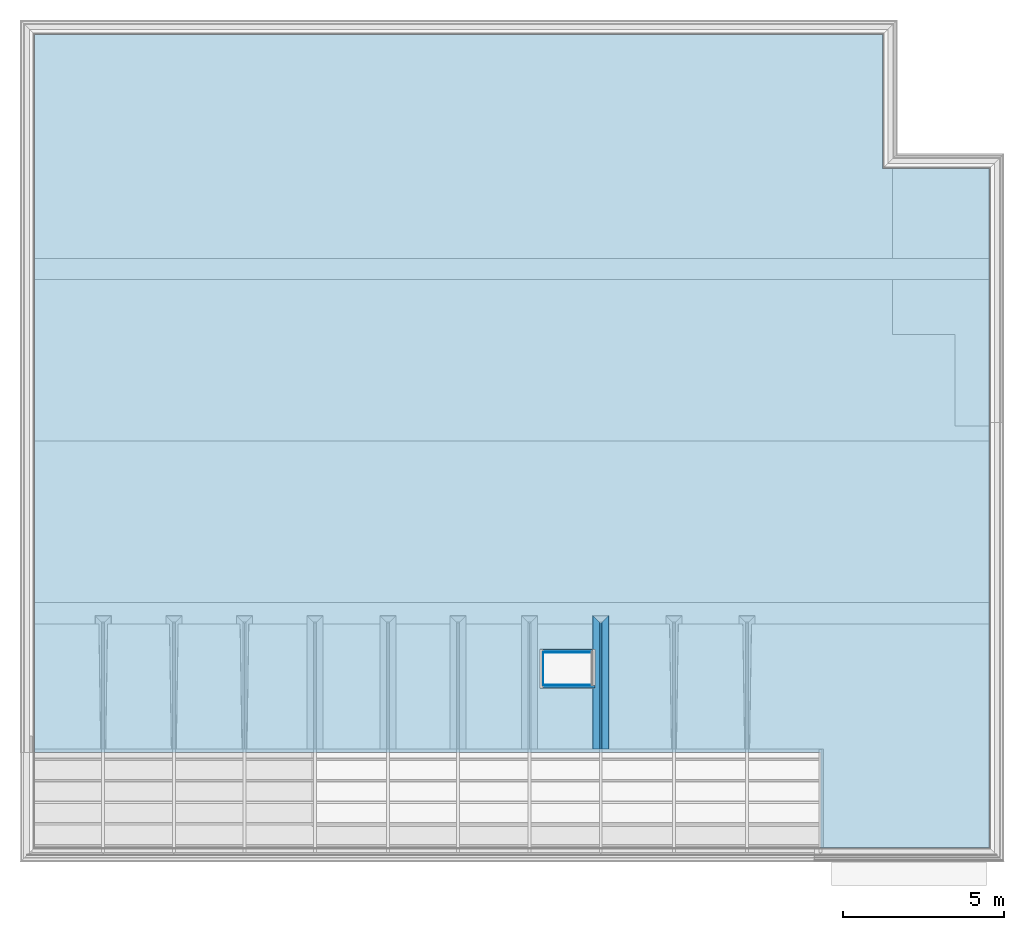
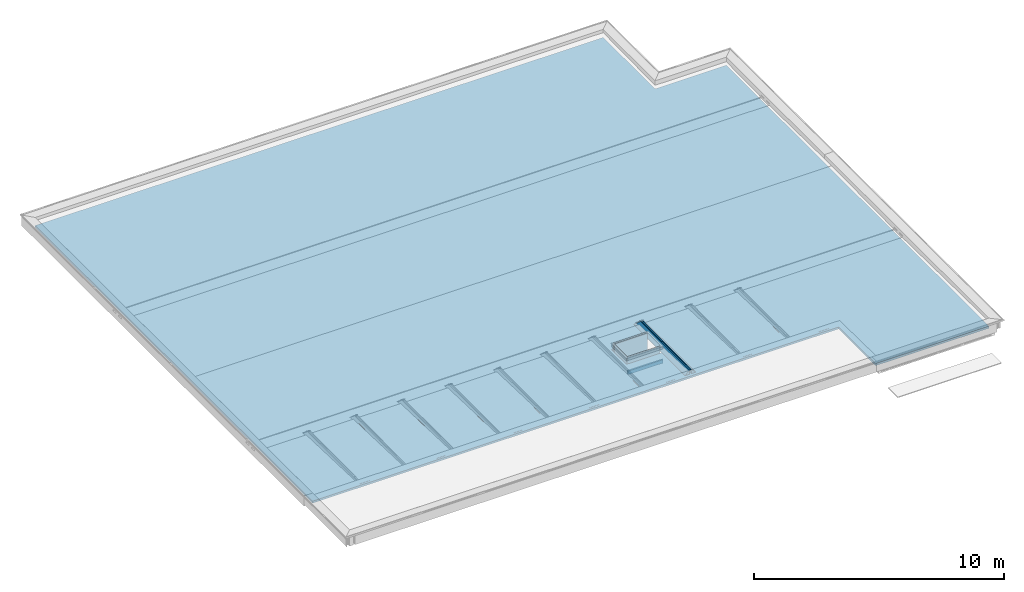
# One storey, part 10 of 16: 12 building element parts, 6 elements without a shape of their own.
"""IFC2X3 building model written with IfcOpenShell, lengths in millimetres."""

from ifc_helpers import new_model, entity, si_unit, converted_unit, derived_unit, money_unit, direction, frame, origin_with_axes, place, context, subcontext, project, spatial, faceted_brep, material, type_object, element, aggregate, save


model = new_model("IFC2X3")

# Units and contexts
model_context = context("Model", 3, precision=0.01, world=origin_with_axes(), true_north=direction((0.0, 1.0)))
body_context = subcontext(model_context, "Body", "Model", "MODEL_VIEW")
ifc_project = project(units=[si_unit("LENGTHUNIT", "METRE", prefix="MILLI"), si_unit("AREAUNIT", "SQUARE_METRE"), si_unit("VOLUMEUNIT", "CUBIC_METRE"), converted_unit("PLANEANGLEUNIT", "DEGREE", entity("IfcPlaneAngleMeasure", 0.0174532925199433), si_unit("PLANEANGLEUNIT", "RADIAN"), dimensions=[0, 0, 0, 0, 0, 0, 0]), money_unit("EUR"), converted_unit("TIMEUNIT", "Year", entity("IfcTimeMeasure", 31556926.0), si_unit("TIMEUNIT", "SECOND"), dimensions=[0, 0, 1, 0, 0, 0, 0]), si_unit("MASSUNIT", "GRAM", prefix="KILO"), si_unit("THERMODYNAMICTEMPERATUREUNIT", "DEGREE_CELSIUS"), si_unit("LUMINOUSINTENSITYUNIT", "LUMEN"), si_unit("ENERGYUNIT", "JOULE", prefix="MEGA"), derived_unit("THERMALCONDUCTANCEUNIT", [(si_unit("POWERUNIT", "WATT"), 1), (si_unit("LENGTHUNIT", "METRE"), -1), (si_unit("THERMODYNAMICTEMPERATUREUNIT", "KELVIN"), -1)]), derived_unit("SPECIFICHEATCAPACITYUNIT", [(si_unit("ENERGYUNIT", "JOULE"), 1), (si_unit("MASSUNIT", "GRAM", prefix="KILO"), -1), (si_unit("THERMODYNAMICTEMPERATUREUNIT", "KELVIN"), -1)]), derived_unit("MASSDENSITYUNIT", [(si_unit("MASSUNIT", "GRAM", prefix="KILO"), 1), (si_unit("VOLUMEUNIT", "CUBIC_METRE"), -1)])], contexts=[model_context])

# Site, building, storey
site_placement = place(None, origin_with_axes())
site = spatial("IfcSite", under=ifc_project, at=site_placement, Name="Site", CompositionType="ELEMENT")
building_placement = place(site_placement, origin_with_axes())
building = spatial("IfcBuilding", under=site, at=building_placement, Name="Naam gebouw", CompositionType="ELEMENT")
storey_placement = place(building_placement, frame((0.0, 0.0, 7820.0), z_axis=(0.0, 0.0, 1.0), x_axis=(1.0, 0.0, 0.0)))
storey = spatial("IfcBuildingStorey", under=building, at=storey_placement, Name="2e dakoverzicht", CompositionType="ELEMENT", Elevation=7820.0)

# Slab, building element part
slab_type = type_object("IfcSlabType", Name="27 Dak isolatie 350", PredefinedType="NOTDEFINED")
slab_placement = place(storey_placement, frame((154.9999999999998, 6779.999999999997, 0.0), z_axis=(0.0, 0.0, 1.0), x_axis=(1.0, 0.0, 0.0)))
slab = element("IfcSlab", 1, at=slab_placement, inside=storey, type_object=slab_type, Name="_Vloer-x", PredefinedType="NOTDEFINED")
ifc_material_1 = material(Name="Isolatie - Steenwol hard")
building_element_part_1_placement = place(slab_placement, origin_with_axes())
building_element_part_1 = element("IfcBuildingElementPart", 2, at=building_element_part_1_placement, material=ifc_material_1, Name="Isolatie - Steenwol hard", context=body_context, shape_type="Brep", body=[
    faceted_brep([(24344.99902028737, 100.0000000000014, 99.99999999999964), (24344.99902028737, 89.99999999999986, 99.99999999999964), (24347.64903999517, 89.99999999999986, 99.99999999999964), (24347.64903999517, -2966.000000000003, 99.99999999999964), (29589.99999999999, -2966.000000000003, 99.99999999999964), (29589.99999999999, 18089.97621406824, 99.99999999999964), (26290.00000000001, 18089.97621406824, 99.99999999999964), (26290.00000000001, 22240.0, 99.99999999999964), (0.0, 22240.0, 99.99999999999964), (0.0, 100.0000000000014, 99.99999999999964), (2129.849999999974, 100.0000000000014, 99.99999999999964), (2129.849999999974, 4030.00005527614, 99.99999999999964), (2135.149999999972, 4030.00005527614, 99.99999999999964), (2135.149999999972, 100.0000000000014, 99.99999999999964), (4317.350000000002, 100.0000000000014, 99.99999999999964), (4317.350000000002, 4030.00005527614, 99.99999999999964), (4322.650000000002, 4030.00005527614, 99.99999999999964), (4322.650000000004, 100.0000000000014, 99.99999999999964), (6504.849999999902, 100.0000000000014, 99.99999999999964), (6504.849999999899, 4030.00005527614, 99.99999999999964), (6510.149999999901, 4030.00005527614, 99.99999999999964), (6510.149999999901, 100.0000000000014, 99.99999999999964), (8692.350000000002, 100.0000000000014, 99.99999999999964), (8692.350000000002, 4030.00005527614, 99.99999999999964), (8697.650000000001, 4030.00005527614, 99.99999999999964), (8697.650000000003, 100.0000000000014, 99.99999999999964), (10950.34985614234, 100.0000000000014, 99.99999999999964), (10950.34985614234, 4030.00005527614, 99.99999999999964), (10955.64985614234, 4030.00005527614, 99.99999999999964), (10955.64985614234, 100.0000000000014, 99.99999999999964), (13117.34971228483, 100.0000000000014, 99.99999999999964), (13117.34971228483, 4030.00005527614, 99.99999999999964), (13122.64971228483, 4030.00005527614, 99.99999999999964), (13122.64971228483, 100.0000000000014, 99.99999999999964), (15329.84956842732, 100.0000000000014, 99.99999999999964), (15329.84956842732, 4030.00005527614, 99.99999999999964), (15335.14956842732, 4030.00005527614, 99.99999999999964), (15335.14956842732, 100.0000000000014, 99.99999999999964), (17542.3494245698, 100.0000000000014, 99.99999999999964), (17542.3494245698, 4030.00005527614, 99.99999999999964), (17547.6494245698, 4030.00005527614, 99.99999999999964), (17547.6494245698, 100.0000000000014, 99.99999999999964), (19809.01596304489, 100.0000000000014, 99.99999999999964), (19809.01596304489, 4030.00005527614, 99.99999999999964), (19814.31596304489, 4030.00005527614, 99.99999999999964), (19814.31596304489, 100.0000000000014, 99.99999999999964), (22075.68250152, 100.0000000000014, 99.99999999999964), (22075.68250152, 4030.00005527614, 99.99999999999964), (22080.98250151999, 4030.00005527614, 99.99999999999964), (22080.98250151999, 100.0000000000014, 99.99999999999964), (17369.99903999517, 1990.000318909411, 99.99999999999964), (15669.99903999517, 1990.000318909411, 99.99999999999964), (15669.99903999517, 3190.000318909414, 99.99999999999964), (17369.99903999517, 3190.000318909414, 99.99999999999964), (24344.99902028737, 100.0000000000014, 98.99999999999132), (24344.99902028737, 89.99999999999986, 98.99999999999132), (24342.34903999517, 89.99999999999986, 98.99999999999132), (24342.34903999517, 89.99999999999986, 97.99999999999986), (24299.49903999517, 89.99999999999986, 97.99999999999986), (24299.49903999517, 89.99999999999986, 89.99999999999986), (24390.49903999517, 89.99999999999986, 89.99999999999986), (24390.49903999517, 89.99999999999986, 97.99999999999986), (24347.64903999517, 89.99999999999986, 97.99999999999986), (24347.64903999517, -2966.000000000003, 97.99999999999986), (24390.49903999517, -2966.000000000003, 97.99999999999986), (24390.49903999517, -2966.000000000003, 89.99999999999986), (24344.99903999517, -2966.000000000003, 89.99999999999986), (24344.99903999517, -2966.000000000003, 0.0), (29589.99999999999, -2966.000000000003, 0.0), (29589.99999999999, 18089.97621406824, 0.0), (26290.00000000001, 18089.97621406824, 0.0), (26290.00000000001, 22240.0, 0.0), (0.0, 22240.0, 0.0), (0.0, 100.0000000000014, 98.99999999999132), (0.0, 0.0, 0.0), (0.0, 0.0, 98.99999999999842), (2129.849999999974, 100.0000000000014, 98.99999999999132), (2129.849999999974, 0.0, 98.99999999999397), (2129.849999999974, 0.0, 97.99999999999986), (2129.849999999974, 4030.00005527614, 97.99999999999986), (2135.149999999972, 4030.00005527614, 97.99999999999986), (2086.999999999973, 4030.00005527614, 97.99999999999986), (2086.999999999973, 4030.00005527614, 89.99999999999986), (2177.999999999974, 4030.00005527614, 89.99999999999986), (2177.999999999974, 4030.00005527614, 97.99999999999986), (2135.149999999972, 100.0000000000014, 98.99999999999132), (2135.149999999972, 0.0, 97.99999999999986), (2135.149999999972, 0.0, 98.99999999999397), (4317.350000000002, 100.0000000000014, 98.99999999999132), (4317.350000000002, 0.0, 98.99999999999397), (4317.350000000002, 0.0, 97.99999999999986), (4317.350000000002, 4030.00005527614, 97.99999999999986), (4322.650000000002, 4030.00005527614, 97.99999999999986), (4274.500000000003, 4030.00005527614, 97.99999999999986), (4274.500000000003, 4030.00005527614, 89.99999999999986), (4365.500000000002, 4030.00005527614, 89.99999999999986), (4365.500000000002, 4030.00005527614, 97.99999999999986), (4322.650000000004, 100.0000000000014, 98.99999999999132), (4322.650000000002, 0.0, 97.99999999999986), (4322.650000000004, 0.0, 98.99999999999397), (6504.849999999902, 100.0000000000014, 98.99999999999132), (6504.8499999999, 0.0, 98.99999999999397), (6504.849999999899, 0.0, 97.99999999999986), (6504.849999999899, 4030.00005527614, 97.99999999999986), (6510.149999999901, 4030.00005527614, 97.99999999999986), (6461.999999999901, 4030.00005527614, 97.99999999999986), (6461.999999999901, 4030.00005527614, 89.99999999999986), (6552.999999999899, 4030.00005527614, 89.99999999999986), (6552.999999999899, 4030.00005527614, 97.99999999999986), (6510.149999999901, 100.0000000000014, 98.99999999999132), (6510.149999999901, 0.0, 97.99999999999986), (6510.149999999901, 0.0, 98.99999999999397), (8692.350000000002, 100.0000000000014, 98.99999999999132), (8692.350000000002, 0.0, 98.99999999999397), (8692.350000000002, 0.0, 97.99999999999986), (8692.350000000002, 4030.00005527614, 97.99999999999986), (8697.650000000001, 4030.00005527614, 97.99999999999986), (8649.500000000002, 4030.00005527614, 97.99999999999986), (8649.500000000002, 4030.00005527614, 89.99999999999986), (8740.500000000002, 4030.00005527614, 89.99999999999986), (8740.500000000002, 4030.00005527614, 97.99999999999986), (8697.650000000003, 100.0000000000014, 98.99999999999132), (8697.650000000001, 0.0, 97.99999999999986), (8697.650000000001, 0.0, 98.99999999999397), (10950.34985614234, 100.0000000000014, 98.99999999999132), (10950.34985614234, 0.0, 98.99999999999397), (10950.34985614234, 0.0, 97.99999999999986), (10950.34985614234, 4030.00005527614, 97.99999999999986), (10955.64985614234, 4030.00005527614, 97.99999999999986), (10907.49985614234, 4030.00005527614, 97.99999999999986), (10907.49985614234, 4030.00005527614, 89.99999999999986), (10998.49985614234, 4030.00005527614, 89.99999999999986), (10998.49985614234, 4030.00005527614, 97.99999999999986), (10955.64985614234, 100.0000000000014, 98.99999999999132), (10955.64985614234, 0.0, 97.99999999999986), (10955.64985614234, 0.0, 98.99999999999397), (13117.34971228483, 100.0000000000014, 98.99999999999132), (13117.34971228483, 0.0, 98.99999999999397), (13117.34971228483, 0.0, 97.99999999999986), (13117.34971228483, 4030.00005527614, 97.99999999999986), (13122.64971228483, 4030.00005527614, 97.99999999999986), (13074.49971228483, 4030.00005527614, 97.99999999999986), (13074.49971228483, 4030.00005527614, 89.99999999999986), (13165.49971228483, 4030.00005527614, 89.99999999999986), (13165.49971228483, 4030.00005527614, 97.99999999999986), (13122.64971228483, 100.0000000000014, 98.99999999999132), (13122.64971228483, 0.0, 97.99999999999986), (13122.64971228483, 0.0, 98.99999999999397), (15329.84956842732, 100.0000000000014, 98.99999999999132), (15329.84956842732, 0.0, 98.99999999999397), (15329.84956842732, 0.0, 97.99999999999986), (15329.84956842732, 4030.00005527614, 97.99999999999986), (15335.14956842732, 4030.00005527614, 97.99999999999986), (15286.99956842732, 4030.00005527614, 97.99999999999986), (15286.99956842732, 4030.00005527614, 89.99999999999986), (15377.99956842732, 4030.00005527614, 89.99999999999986), (15377.99956842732, 4030.00005527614, 97.99999999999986), (15335.14956842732, 100.0000000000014, 98.99999999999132), (15335.14956842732, 0.0, 97.99999999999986), (15335.14956842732, 0.0, 98.99999999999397), (17542.3494245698, 100.0000000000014, 98.99999999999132), (17542.3494245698, 0.0, 98.99999999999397), (17542.3494245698, 0.0, 97.99999999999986), (17542.3494245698, 4030.00005527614, 97.99999999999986), (17547.6494245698, 4030.00005527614, 97.99999999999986), (17499.4994245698, 4030.00005527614, 97.99999999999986), (17499.4994245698, 4030.00005527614, 89.99999999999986), (17590.4994245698, 4030.00005527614, 89.99999999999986), (17590.4994245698, 4030.00005527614, 97.99999999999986), (17547.6494245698, 100.0000000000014, 98.99999999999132), (17547.6494245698, 0.0, 97.99999999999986), (17547.6494245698, 0.0, 98.99999999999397), (19809.01596304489, 100.0000000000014, 98.99999999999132), (19809.01596304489, 0.0, 98.99999999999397), (19809.01596304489, 0.0, 97.99999999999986), (19809.01596304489, 4030.00005527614, 97.99999999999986), (19814.31596304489, 4030.00005527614, 97.99999999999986), (19766.1659630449, 4030.00005527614, 97.99999999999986), (19766.1659630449, 4030.00005527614, 89.99999999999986), (19857.1659630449, 4030.00005527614, 89.99999999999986), (19857.1659630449, 4030.00005527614, 97.99999999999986), (19814.31596304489, 100.0000000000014, 98.99999999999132), (19814.31596304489, 0.0, 97.99999999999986), (19814.31596304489, 0.0, 98.99999999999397), (22075.68250152, 100.0000000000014, 98.99999999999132), (22075.68250152, 0.0, 98.99999999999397), (22075.68250152, 0.0, 97.99999999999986), (22075.68250152, 4030.00005527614, 97.99999999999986), (22080.98250151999, 4030.00005527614, 97.99999999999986), (22032.83250152, 4030.00005527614, 97.99999999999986), (22032.83250152, 4030.00005527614, 89.99999999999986), (22123.83250152, 4030.00005527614, 89.99999999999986), (22123.83250152, 4030.00005527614, 97.99999999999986), (22080.98250151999, 100.0000000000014, 98.99999999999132), (22080.98250151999, 0.0, 97.99999999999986), (22080.98250151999, 0.0, 98.99999999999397), (17369.99903999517, 1990.000318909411, 0.0), (15669.99903999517, 1990.000318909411, 0.0), (15669.99903999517, 3190.000318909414, 0.0), (17369.99903999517, 3190.000318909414, 0.0), (24342.34903999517, 0.0, 98.99999999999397), (24342.34903999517, 0.0, 97.99999999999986), (24299.49903999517, 0.0, 97.99999999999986), (24299.49903999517, 0.0, 89.99999999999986), (24344.99903999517, 0.0, 89.99999999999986), (24344.99903999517, 0.0, 0.0), (22123.83250152, 0.0, 97.99999999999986), (22123.83250151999, 0.0, 89.99999999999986), (22032.83250151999, 0.0, 89.99999999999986), (22032.83250152, 0.0, 97.99999999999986), (19857.1659630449, 0.0, 97.99999999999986), (19857.16596304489, 0.0, 89.99999999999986), (19766.16596304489, 0.0, 89.99999999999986), (19766.1659630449, 0.0, 97.99999999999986), (17590.4994245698, 0.0, 97.99999999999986), (17590.4994245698, 0.0, 89.99999999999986), (17499.4994245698, 0.0, 89.99999999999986), (17499.4994245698, 0.0, 97.99999999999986), (15377.99956842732, 0.0, 97.99999999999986), (15377.99956842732, 0.0, 89.99999999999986), (15286.99956842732, 0.0, 89.99999999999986), (15286.99956842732, 0.0, 97.99999999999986), (13165.49971228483, 0.0, 97.99999999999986), (13165.49971228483, 0.0, 89.99999999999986), (13074.49971228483, 0.0, 89.99999999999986), (13074.49971228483, 0.0, 97.99999999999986), (10998.49985614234, 0.0, 97.99999999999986), (10998.49985614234, 0.0, 89.99999999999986), (10907.49985614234, 0.0, 89.99999999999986), (10907.49985614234, 0.0, 97.99999999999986), (8740.500000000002, 0.0, 97.99999999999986), (8740.500000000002, 0.0, 89.99999999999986), (8649.500000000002, 0.0, 89.99999999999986), (8649.500000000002, 0.0, 97.99999999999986), (6552.999999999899, 0.0, 97.99999999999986), (6552.999999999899, 0.0, 89.99999999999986), (6461.999999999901, 0.0, 89.99999999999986), (6461.999999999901, 0.0, 97.99999999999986), (4365.500000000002, 0.0, 97.99999999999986), (4365.500000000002, 0.0, 89.99999999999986), (4274.500000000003, 0.0, 89.99999999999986), (4274.500000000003, 0.0, 97.99999999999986), (2177.999999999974, 0.0, 97.99999999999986), (2177.999999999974, 0.0, 89.99999999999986), (2086.999999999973, 0.0, 89.99999999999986), (2086.999999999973, 0.0, 97.99999999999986)], [[[0, 1, 2, 3, 4, 5, 6, 7, 8, 9, 10, 11, 12, 13, 14, 15, 16, 17, 18, 19, 20, 21, 22, 23, 24, 25, 26, 27, 28, 29, 30, 31, 32, 33, 34, 35, 36, 37, 38, 39, 40, 41, 42, 43, 44, 45, 46, 47, 48, 49], [50, 51, 52, 53]], [[1, 0, 54, 55]], [[55, 56, 57, 58, 59, 60, 61, 62, 2, 1]], [[63, 3, 2, 62]], [[4, 3, 63, 64, 65, 66, 67, 68]], [[5, 4, 68, 69]], [[6, 5, 69, 70]], [[7, 6, 70, 71]], [[8, 7, 71, 72]], [[73, 9, 8, 72, 74, 75]], [[76, 10, 9, 73]], [[76, 77, 78, 79, 11, 10]], [[80, 12, 11, 79, 81, 82, 83, 84]], [[85, 13, 12, 80, 86, 87]], [[88, 14, 13, 85]], [[88, 89, 90, 91, 15, 14]], [[92, 16, 15, 91, 93, 94, 95, 96]], [[97, 17, 16, 92, 98, 99]], [[100, 18, 17, 97]], [[100, 101, 102, 103, 19, 18]], [[104, 20, 19, 103, 105, 106, 107, 108]], [[109, 21, 20, 104, 110, 111]], [[112, 22, 21, 109]], [[112, 113, 114, 115, 23, 22]], [[116, 24, 23, 115, 117, 118, 119, 120]], [[121, 25, 24, 116, 122, 123]], [[124, 26, 25, 121]], [[124, 125, 126, 127, 27, 26]], [[128, 28, 27, 127, 129, 130, 131, 132]], [[133, 29, 28, 128, 134, 135]], [[136, 30, 29, 133]], [[136, 137, 138, 139, 31, 30]], [[140, 32, 31, 139, 141, 142, 143, 144]], [[145, 33, 32, 140, 146, 147]], [[148, 34, 33, 145]], [[148, 149, 150, 151, 35, 34]], [[152, 36, 35, 151, 153, 154, 155, 156]], [[157, 37, 36, 152, 158, 159]], [[160, 38, 37, 157]], [[160, 161, 162, 163, 39, 38]], [[164, 40, 39, 163, 165, 166, 167, 168]], [[169, 41, 40, 164, 170, 171]], [[172, 42, 41, 169]], [[172, 173, 174, 175, 43, 42]], [[176, 44, 43, 175, 177, 178, 179, 180]], [[181, 45, 44, 176, 182, 183]], [[184, 46, 45, 181]], [[184, 185, 186, 187, 47, 46]], [[188, 48, 47, 187, 189, 190, 191, 192]], [[193, 49, 48, 188, 194, 195]], [[0, 49, 193, 54]], [[51, 50, 196, 197]], [[52, 51, 197, 198]], [[53, 52, 198, 199]], [[50, 53, 199, 196]], [[56, 55, 54, 193, 195, 200]], [[56, 200, 201, 57]], [[57, 201, 202, 58]], [[58, 202, 203, 59]], [[204, 66, 65, 60, 59, 203]], [[60, 65, 64, 61]], [[61, 64, 63, 62]], [[67, 66, 204, 205]], [[67, 205, 74, 72, 71, 70, 69, 68], [196, 199, 198, 197]], [[200, 195, 194, 206, 207, 208, 209, 186, 185, 183, 182, 210, 211, 212, 213, 174, 173, 171, 170, 214, 215, 216, 217, 162, 161, 159, 158, 218, 219, 220, 221, 150, 149, 147, 146, 222, 223, 224, 225, 138, 137, 135, 134, 226, 227, 228, 229, 126, 125, 123, 122, 230, 231, 232, 233, 114, 113, 111, 110, 234, 235, 236, 237, 102, 101, 99, 98, 238, 239, 240, 241, 90, 89, 87, 86, 242, 243, 244, 245, 78, 77, 75, 74, 205, 204, 203, 202, 201]], [[77, 76, 73, 75]], [[79, 78, 245, 81]], [[81, 245, 244, 82]], [[82, 244, 243, 83]], [[83, 243, 242, 84]], [[84, 242, 86, 80]], [[89, 88, 85, 87]], [[91, 90, 241, 93]], [[93, 241, 240, 94]], [[94, 240, 239, 95]], [[95, 239, 238, 96]], [[96, 238, 98, 92]], [[101, 100, 97, 99]], [[103, 102, 237, 105]], [[105, 237, 236, 106]], [[106, 236, 235, 107]], [[107, 235, 234, 108]], [[108, 234, 110, 104]], [[113, 112, 109, 111]], [[115, 114, 233, 117]], [[117, 233, 232, 118]], [[118, 232, 231, 119]], [[119, 231, 230, 120]], [[120, 230, 122, 116]], [[125, 124, 121, 123]], [[127, 126, 229, 129]], [[129, 229, 228, 130]], [[130, 228, 227, 131]], [[131, 227, 226, 132]], [[132, 226, 134, 128]], [[137, 136, 133, 135]], [[139, 138, 225, 141]], [[141, 225, 224, 142]], [[142, 224, 223, 143]], [[143, 223, 222, 144]], [[144, 222, 146, 140]], [[149, 148, 145, 147]], [[151, 150, 221, 153]], [[153, 221, 220, 154]], [[154, 220, 219, 155]], [[155, 219, 218, 156]], [[156, 218, 158, 152]], [[161, 160, 157, 159]], [[163, 162, 217, 165]], [[165, 217, 216, 166]], [[166, 216, 215, 167]], [[167, 215, 214, 168]], [[168, 214, 170, 164]], [[173, 172, 169, 171]], [[175, 174, 213, 177]], [[177, 213, 212, 178]], [[178, 212, 211, 179]], [[179, 211, 210, 180]], [[180, 210, 182, 176]], [[185, 184, 181, 183]], [[187, 186, 209, 189]], [[189, 209, 208, 190]], [[190, 208, 207, 191]], [[191, 207, 206, 192]], [[192, 206, 194, 188]]]),
])
aggregate(slab, [building_element_part_1])

# Proxy, building element parts
building_element_proxy_type = type_object("IfcBuildingElementProxyType", Name="22 Metal stud 100 voorzetwand 100", PredefinedType="NOTDEFINED")
proxy_1_placement = place(storey_placement, frame((17424.99903999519, 9870.000318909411, -460.0000000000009), z_axis=(0.0, 0.0, 1.0), x_axis=(-1.0, 0.0, 0.0)))
proxy_1 = element("IfcBuildingElementProxy", 3, at=proxy_1_placement, inside=storey, type_object=building_element_proxy_type, Name="_Wand-x")
ifc_material_2 = material(Name="Gipsplaat")
building_element_part_2_placement = place(proxy_1_placement, origin_with_axes())
building_element_part_2 = element("IfcBuildingElementPart", 4, at=building_element_part_2_placement, material=ifc_material_2, Name="Gipsplaat", context=body_context, shape_type="Brep", body=[
    faceted_brep([(1500.0, -25.00000000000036, 25.00000000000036), (1500.0, -25.00000000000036, 0.0), (1512.499999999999, -25.00000000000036, 0.0), (1512.499999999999, -25.00000000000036, 840.0000000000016), (-12.49999999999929, -25.00000000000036, 840.0000000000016), (-12.49999999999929, -25.00000000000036, 0.0), (0.0, -25.00000000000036, 0.0), (0.0, -25.00000000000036, 25.00000000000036), (1500.0, -12.49999999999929, 25.00000000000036), (1500.0, -12.49999999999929, 0.0), (1512.499999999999, -12.49999999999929, 0.0), (1512.499999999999, -12.49999999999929, 840.0000000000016), (-12.49999999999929, -12.49999999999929, 840.0000000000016), (-12.49999999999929, -12.49999999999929, 0.0), (0.0, -12.49999999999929, 0.0), (0.0, -12.49999999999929, 25.00000000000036)], [[[0, 1, 2, 3, 4, 5, 6, 7]], [[1, 0, 8, 9]], [[1, 9, 10, 2]], [[11, 3, 2, 10]], [[3, 11, 12, 4]], [[5, 4, 12, 13]], [[14, 6, 5, 13]], [[7, 6, 14, 15]], [[0, 7, 15, 8]], [[15, 14, 13, 12, 11, 10, 9, 8]]]),
])
ifc_material_3 = material(Name="ALG - LICHTE SCHEIDINGSWAND")
building_element_part_3_placement = place(proxy_1_placement, origin_with_axes())
building_element_part_3 = element("IfcBuildingElementPart", 5, at=building_element_part_3_placement, material=ifc_material_3, Name="ALG - LICHTE SCHEIDINGSWAND", context=body_context, shape_type="Brep", body=[
    faceted_brep([(1500.0, -84.9998940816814, 0.0), (1500.0, -25.00000000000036, 0.0), (1525.0, -25.00000000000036, 0.0), (1525.0, -99.99999999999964, 0.0), (-24.99999999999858, -99.99999999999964, 0.0), (-24.99999999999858, -25.00000000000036, 0.0), (0.0, -25.00000000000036, 0.0), (0.0, -84.9998940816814, 0.0), (1500.0, -84.9998940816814, 25.00000000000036), (1500.0, -25.00000000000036, 25.00000000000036), (0.0, -25.00000000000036, 25.00000000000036), (-24.99999999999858, -25.00000000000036, 840.0000000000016), (1525.0, -25.00000000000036, 840.0000000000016), (1525.0, -99.99999999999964, 840.0000000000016), (-24.99999999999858, -99.99999999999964, 840.0000000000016), (0.0, -84.9998940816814, 25.00000000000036)], [[[0, 1, 2, 3, 4, 5, 6, 7]], [[1, 0, 8, 9]], [[10, 6, 5, 11, 12, 2, 1, 9]], [[12, 13, 3, 2]], [[3, 13, 14, 4]], [[4, 14, 11, 5]], [[7, 6, 10, 15]], [[0, 7, 15, 8]], [[10, 9, 8, 15]], [[13, 12, 11, 14]]]),
])
building_element_part_4_placement = place(proxy_1_placement, origin_with_axes())
building_element_part_4 = element("IfcBuildingElementPart", 6, at=building_element_part_4_placement, material=ifc_material_2, Name="Gipsplaat", context=body_context, shape_type="Brep", body=[
    faceted_brep([(0.0, 0.0, 25.00000000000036), (0.0, -12.49999999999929, 25.00000000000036), (0.0, -12.49999999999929, 840.0000000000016), (0.0, 0.0, 840.0000000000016), (1500.0, -12.49999999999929, 25.00000000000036), (1500.0, 0.0, 25.00000000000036), (1500.0, -12.49999999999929, 840.0000000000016), (1500.0, 0.0, 840.0000000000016)], [[[0, 1, 2, 3]], [[4, 1, 0, 5]], [[1, 4, 6, 2]], [[6, 7, 3, 2]], [[5, 0, 3, 7]], [[4, 5, 7, 6]]]),
])
aggregate(proxy_1, [building_element_part_2, building_element_part_3, building_element_part_4])

proxy_2_placement = place(storey_placement, frame((15924.99903999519, 8870.000318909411, -460.0000000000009), z_axis=(0.0, 0.0, 1.0), x_axis=(1.0, 0.0, 0.0)))
proxy_2 = element("IfcBuildingElementProxy", 7, at=proxy_2_placement, inside=storey, type_object=building_element_proxy_type, Name="_Wand-x")
building_element_part_5_placement = place(proxy_2_placement, origin_with_axes())
building_element_part_5 = element("IfcBuildingElementPart", 8, at=building_element_part_5_placement, material=ifc_material_2, Name="Gipsplaat", context=body_context, shape_type="Brep", body=[
    faceted_brep([(1512.499999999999, -12.49999999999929, 840.0000000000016), (1512.499999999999, 0.0, 840.0000000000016), (0.0, 0.0, 840.0000000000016), (0.0, -12.49999999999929, 840.0000000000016), (1512.499999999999, -12.49999999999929, 0.0), (1512.499999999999, 0.0, 0.0), (0.0, 0.0, 0.0), (0.0, -12.49999999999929, 0.0)], [[[0, 1, 2, 3]], [[1, 0, 4, 5]], [[1, 5, 6, 2]], [[7, 3, 2, 6]], [[4, 0, 3, 7]], [[5, 4, 7, 6]]]),
])
building_element_part_6_placement = place(proxy_2_placement, origin_with_axes())
building_element_part_6 = element("IfcBuildingElementPart", 9, at=building_element_part_6_placement, material=ifc_material_2, Name="Gipsplaat", context=body_context, shape_type="Brep", body=[
    faceted_brep([(1514.99999999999, -12.49999999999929, 840.0000000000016), (1514.99999999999, -12.49999999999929, 200.0000000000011), (1524.999999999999, -12.49999999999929, 200.0000000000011), (1524.999999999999, -12.49999999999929, 25.00000000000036), (1499.999999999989, -12.49999999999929, 25.00000000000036), (1499.999999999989, -12.49999999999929, 0.0), (0.0, -12.49999999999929, 0.0), (0.0, -12.49999999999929, 25.00000000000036), (-12.49999999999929, -12.49999999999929, 25.00000000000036), (-12.49999999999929, -12.49999999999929, 840.0000000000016), (1514.99999999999, -15.0003423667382, 840.0000000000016), (1514.99999999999, -15.0003423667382, 200.0000000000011), (1524.999999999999, -25.00000000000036, 200.0000000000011), (-12.49999999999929, -15.0003423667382, 200.0000000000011), (-12.49999999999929, -25.00000000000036, 200.0000000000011), (1524.999999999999, -25.00000000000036, 25.00000000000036), (1499.999999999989, -15.00000000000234, 25.00000000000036), (-12.49999999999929, -25.00000000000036, 25.00000000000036), (0.0, -15.00000000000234, 25.00000000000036), (1499.999999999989, -15.00000000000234, 0.0), (0.0, -15.00000000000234, 0.0), (-12.49999999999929, -15.0003423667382, 840.0000000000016)], [[[0, 1, 2, 3, 4, 5, 6, 7, 8, 9]], [[1, 0, 10, 11]], [[12, 2, 1, 11, 13, 14]], [[2, 12, 15, 3]], [[16, 4, 3, 15, 17, 8, 7, 18]], [[19, 5, 4, 16]], [[19, 20, 6, 5]], [[18, 7, 6, 20]], [[13, 21, 9, 8, 17, 14]], [[10, 0, 9, 21]], [[10, 21, 13, 11]], [[12, 14, 17, 15]], [[18, 20, 19, 16]]]),
])

# Proxy, building element part
proxy_3_placement = place(storey_placement, frame((15924.99903999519, 9870.000424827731, -460.0000000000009), z_axis=(0.0, 0.0, 1.0), x_axis=(0.0, -1.0, 0.0)))
proxy_3 = element("IfcBuildingElementProxy", 10, at=proxy_3_placement, inside=storey, type_object=building_element_proxy_type, Name="_Wand-x")
building_element_part_7_placement = place(proxy_3_placement, origin_with_axes())
building_element_part_7 = element("IfcBuildingElementPart", 11, at=building_element_part_7_placement, material=ifc_material_2, Name="Gipsplaat", context=body_context, shape_type="Brep", body=[
    faceted_brep([(1012.500105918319, -12.49999999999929, 840.0000000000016), (1012.500105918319, 0.0, 840.0000000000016), (-12.49989408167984, 0.0, 840.0000000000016), (-12.49989408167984, -12.49999999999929, 840.0000000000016), (1012.500105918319, -12.49999999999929, 0.0), (1012.500105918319, 0.0, 0.0), (-12.49989408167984, 0.0, 0.0), (-12.49989408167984, -12.49999999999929, 0.0)], [[[0, 1, 2, 3]], [[1, 0, 4, 5]], [[1, 5, 6, 2]], [[7, 3, 2, 6]], [[4, 0, 3, 7]], [[5, 4, 7, 6]]]),
])
aggregate(proxy_3, [building_element_part_7])

# Beam, building element parts
beam_type = type_object("IfcBeamType", Name="47 IPE inpakken 250 x 203", PredefinedType="BEAM")
beam_1_placement = place(storey_placement, frame((17745.4994245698, 6879.999999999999, 269.9999999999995), z_axis=(0.0, 0.0, 1.0), x_axis=(1.0, 0.0, 0.0)))
beam_1 = element("IfcBeam", 12, at=beam_1_placement, inside=storey, type_object=beam_type, Name="_Regenwaterafvoer-x", ObjectType="BEAM")
ifc_material_4 = material(Name="47 waterdichte laag - bitumen")
building_element_part_8_placement = place(beam_1_placement, origin_with_axes())
building_element_part_8 = element("IfcBuildingElementPart", 13, at=building_element_part_8_placement, material=ifc_material_4, Name="47 waterdichte laag - bitumen", context=body_context, shape_type="Brep", body=[
    faceted_brep([(-45.50000000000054, 3884.500055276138, 52.99999990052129), (-45.50000000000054, 3884.500055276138, 50.00000164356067), (-45.50000000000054, 0.0, 50.00000164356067), (-45.50000000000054, 0.0, 52.99999990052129), (1.242640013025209, 3931.242695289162, 52.99999990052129), (204.2426399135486, 4134.242695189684, -150.0000000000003), (199.9999981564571, 4130.000053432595, -150.0000000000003), (2.34354757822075e-07, 3930.000055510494, 50.00000164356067), (2.34354757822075e-07, 0.0, 50.00000164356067), (199.9999981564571, 0.0, -150.0000000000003), (204.2426399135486, 0.0, -150.0000000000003), (1.242640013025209, 0.0, 52.99999990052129)], [[[0, 1, 2, 3]], [[0, 4, 5, 6, 7, 1]], [[1, 7, 8, 2]], [[3, 2, 8, 9, 10, 11]], [[4, 0, 3, 11]], [[5, 4, 11, 10]], [[6, 5, 10, 9]], [[7, 6, 9, 8]]]),
])
ifc_material_5 = material(Name="Isolatie - Kunststof hard")
building_element_part_9_placement = place(beam_1_placement, origin_with_axes())
building_element_part_9 = element("IfcBuildingElementPart", 14, at=building_element_part_9_placement, material=ifc_material_5, Name="Isolatie - Kunststof hard", context=body_context, shape_type="Brep", body=[
    faceted_brep([(199.9999999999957, 4130.000055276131, -150.0000000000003), (0.0, 3930.000055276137, 50.00000000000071), (0.0, 0.0, 50.00000000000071), (199.9999999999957, 0.0, -150.0000000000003), (0.0, 3930.000055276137, -150.0000000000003), (0.0, 3930.000055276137, 0.0), (-45.50000000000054, 3884.500055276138, 0.0), (-45.50000000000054, 3884.500055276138, 50.00000000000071), (-45.50000000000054, 0.0, 50.00000000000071), (-45.50000000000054, 0.0, 0.0), (0.0, 0.0, 0.0), (0.0, 0.0, -150.0000000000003)], [[[0, 1, 2, 3]], [[0, 4, 5, 6, 7, 1]], [[1, 7, 8, 2]], [[3, 2, 8, 9, 10, 11]], [[4, 0, 3, 11]], [[5, 4, 11, 10]], [[6, 5, 10, 9]], [[7, 6, 9, 8]]]),
])
aggregate(beam_1, [building_element_part_8, building_element_part_9])

beam_2_placement = place(storey_placement, frame((17654.4994245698, 10810.00005527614, 269.9999999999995), z_axis=(0.0, 0.0, 1.0), x_axis=(-1.0, 0.0, 0.0)))
beam_2 = element("IfcBeam", 15, at=beam_2_placement, inside=storey, type_object=beam_type, Name="_Regenwaterafvoer-x", ObjectType="BEAM")
building_element_part_10_placement = place(beam_2_placement, origin_with_axes())
building_element_part_10 = element("IfcBuildingElementPart", 16, at=building_element_part_10_placement, material=ifc_material_4, Name="47 waterdichte laag - bitumen", context=body_context, shape_type="Brep", body=[
    faceted_brep([(-45.50000000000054, 3930.000055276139, 52.99999990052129), (-45.50000000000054, 3930.000055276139, 50.00000164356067), (-45.50000000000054, 45.50000000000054, 50.00000164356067), (-45.50000000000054, 45.50000000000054, 52.99999990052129), (1.242640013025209, 3930.000055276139, 52.99999990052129), (204.2426399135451, 3930.000055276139, -150.0000000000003), (199.9999981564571, 3930.000055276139, -150.0000000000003), (2.34354757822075e-07, 3930.000055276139, 50.00000164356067), (2.34354757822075e-07, -2.34354757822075e-07, 50.00000164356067), (199.9999981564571, -199.9999981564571, -150.0000000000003), (204.2426399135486, -204.2426399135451, -150.0000000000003), (1.242640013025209, -1.242640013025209, 52.99999990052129)], [[[0, 1, 2, 3]], [[0, 4, 5, 6, 7, 1]], [[1, 7, 8, 2]], [[3, 2, 8, 9, 10, 11]], [[4, 0, 3, 11]], [[5, 4, 11, 10]], [[6, 5, 10, 9]], [[7, 6, 9, 8]]]),
])
building_element_part_11_placement = place(beam_2_placement, origin_with_axes())
building_element_part_11 = element("IfcBuildingElementPart", 17, at=building_element_part_11_placement, material=ifc_material_5, Name="Isolatie - Kunststof hard", context=body_context, shape_type="Brep", body=[
    faceted_brep([(199.9999999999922, 3930.000055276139, -150.0000000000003), (0.0, 3930.000055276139, 50.00000000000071), (0.0, 0.0, 50.00000000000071), (199.9999999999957, -199.9999999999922, -150.0000000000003), (0.0, 3930.000055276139, -150.0000000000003), (0.0, 3930.000055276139, 0.0), (-45.50000000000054, 3930.000055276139, 0.0), (-45.50000000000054, 3930.000055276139, 50.00000000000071), (-45.50000000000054, 45.50000000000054, 50.00000000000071), (-45.50000000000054, 45.50000000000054, 0.0), (0.0, 0.0, 0.0), (0.0, 0.0, -150.0000000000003)], [[[0, 1, 2, 3]], [[0, 4, 5, 6, 7, 1]], [[1, 7, 8, 2]], [[3, 2, 8, 9, 10, 11]], [[4, 0, 3, 11]], [[5, 4, 11, 10]], [[6, 5, 10, 9]], [[7, 6, 9, 8]]]),
])
aggregate(beam_2, [building_element_part_10, building_element_part_11])

# Building element part
building_element_part_12_placement = place(proxy_2_placement, origin_with_axes())
building_element_part_12 = element("IfcBuildingElementPart", 18, at=building_element_part_12_placement, material=ifc_material_3, Name="ALG - LICHTE SCHEIDINGSWAND", context=body_context, shape_type="Brep", body=[
    faceted_brep([(-25.00000000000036, -25.00000000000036, 200.0000000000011), (1600.000000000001, -25.00000000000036, 200.0000000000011), (1600.000000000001, -25.00000000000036, 25.00000000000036), (-25.00000000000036, -25.00000000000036, 25.00000000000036), (1600.000000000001, -99.99999999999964, 200.0000000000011), (-25.00000000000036, -99.99999999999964, 200.0000000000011), (1600.000000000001, -99.99999999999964, 25.00000000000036), (-25.00000000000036, -99.99999999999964, 25.00000000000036)], [[[0, 1, 2, 3]], [[4, 1, 0, 5]], [[1, 4, 6, 2]], [[7, 3, 2, 6]], [[5, 0, 3, 7]], [[4, 5, 7, 6]]]),
])

aggregate(proxy_2, [building_element_part_5, building_element_part_6, building_element_part_12])

save(model, "model.ifc")
